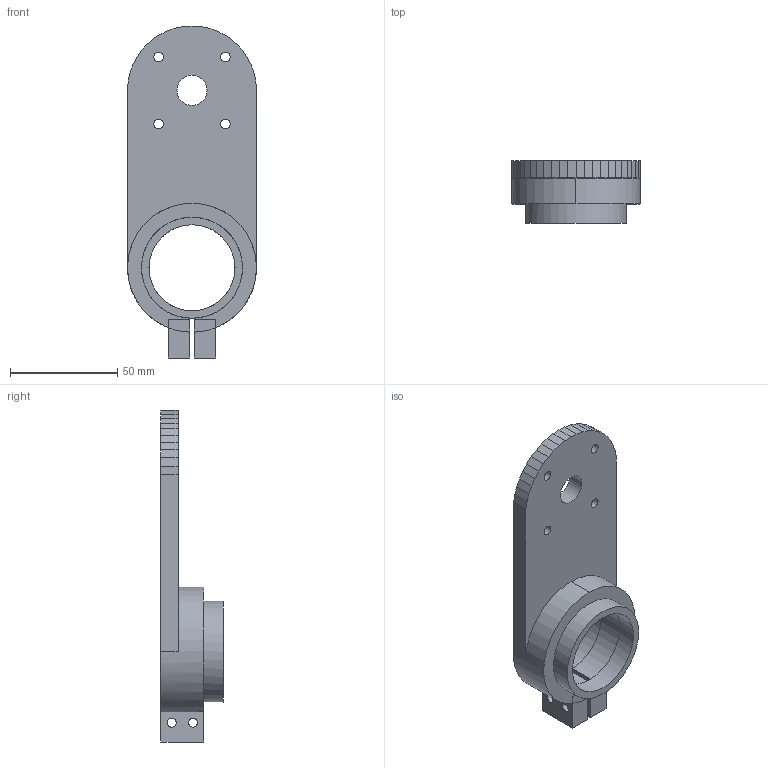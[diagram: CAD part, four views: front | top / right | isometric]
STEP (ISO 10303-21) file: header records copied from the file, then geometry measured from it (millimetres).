
FILE_DESCRIPTION(('Open CASCADE Model'),'2;1');
FILE_NAME('Open CASCADE Shape Model','2026-10-18T22:58:19',('Author'),( 'Open CASCADE'),'Open CASCADE STEP processor 7.9','Open CASCADE 7.9' ,'Unknown');
FILE_SCHEMA(('AUTOMOTIVE_DESIGN { 1 0 10303 214 1 1 1 1 }'));
Length unit declared in the file: millimetre
Products named in the file (1): Open CASCADE STEP translator 7.9 17
Bounding box: 60 x 29 x 154.5 mm (x, y, z)
Volume: 77356.6 mm3; surface area: 25870.2 mm2
Topology: 1 solids, 1 shells, 97 faces, 241 edges, 147 vertices
Faces by surface type: plane 76, cylinder 21
Full cylindrical faces by diameter (mm): 2.5 x2, 4.2 x4, 4.5 x4, 5.5 x2, 14 x1, 40.04 x1, 47 x1
Entity records: 6038 total; most frequent: CARTESIAN_POINT 1148, DIRECTION 919, LINE 531, VECTOR 531, ORIENTED_EDGE 482, PCURVE 482, DEFINITIONAL_REPRESENTATION 482, EDGE_CURVE 241
